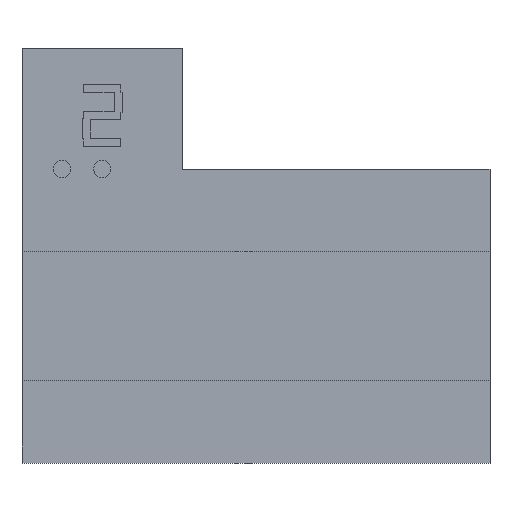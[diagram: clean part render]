
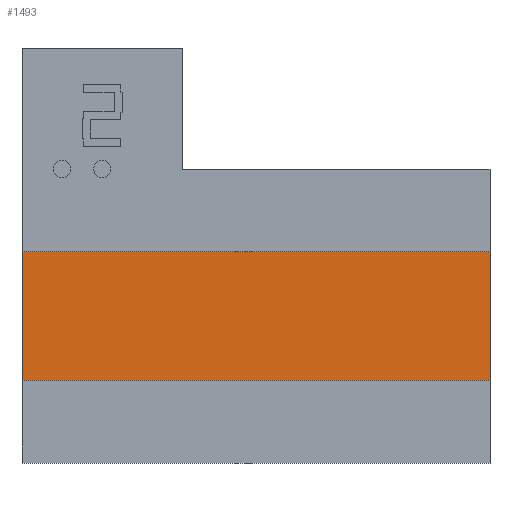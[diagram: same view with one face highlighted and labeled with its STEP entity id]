
A CAD part, top view. The second image highlights one B-rep face of the part: STEP entity #1493.
In plain terms, the highlighted planar face has unit normal (0, 0, 1).
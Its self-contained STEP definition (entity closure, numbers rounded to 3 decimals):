
#128 = PLANE('',#129);
#129 = AXIS2_PLACEMENT_3D('',#130,#131,#132);
#130 = CARTESIAN_POINT('',(12.,11.,6.2));
#131 = DIRECTION('',(1.,0.,0.));
#132 = DIRECTION('',(0.,0.,-1.));
#182 = PLANE('',#183);
#183 = AXIS2_PLACEMENT_3D('',#184,#185,#186);
#184 = CARTESIAN_POINT('',(-23.,11.,6.2));
#185 = DIRECTION('',(1.,0.,0.));
#186 = DIRECTION('',(0.,0.,-1.));
#422 = VERTEX_POINT('',#423);
#423 = CARTESIAN_POINT('',(12.,7.4,3.));
#436 = PLANE('',#437);
#437 = AXIS2_PLACEMENT_3D('',#438,#439,#440);
#438 = CARTESIAN_POINT('',(-31.,7.4,3.));
#439 = DIRECTION('',(0.,-1.,0.));
#440 = DIRECTION('',(0.,0.,1.));
#448 = EDGE_CURVE('',#422,#449,#451,.T.);
#449 = VERTEX_POINT('',#450);
#450 = CARTESIAN_POINT('',(12.,-7.4,3.));
#451 = SURFACE_CURVE('',#452,(#456,#462),.PCURVE_S1.);
#452 = LINE('',#453,#454);
#453 = CARTESIAN_POINT('',(12.,1.8,3.));
#454 = VECTOR('',#455,1.);
#455 = DIRECTION('',(0.,-1.,0.));
#456 = PCURVE('',#128,#457);
#457 = DEFINITIONAL_REPRESENTATION('',(#458),#461);
#458 = B_SPLINE_CURVE_WITH_KNOTS('',1,(#459,#460),.UNSPECIFIED.,.F.,.F.,
  (2,2),(-5.6,9.2),.PIECEWISE_BEZIER_KNOTS.);
#459 = CARTESIAN_POINT('',(3.2,-3.6));
#460 = CARTESIAN_POINT('',(3.2,-18.4));
#461 = ( GEOMETRIC_REPRESENTATION_CONTEXT(2) 
PARAMETRIC_REPRESENTATION_CONTEXT() REPRESENTATION_CONTEXT('2D SPACE',''
  ) );
#462 = PCURVE('',#463,#468);
#463 = PLANE('',#464);
#464 = AXIS2_PLACEMENT_3D('',#465,#466,#467);
#465 = CARTESIAN_POINT('',(-31.,-7.4,3.));
#466 = DIRECTION('',(0.,0.,1.));
#467 = DIRECTION('',(0.,1.,0.));
#468 = DEFINITIONAL_REPRESENTATION('',(#469),#473);
#469 = LINE('',#470,#471);
#470 = CARTESIAN_POINT('',(9.2,-43.));
#471 = VECTOR('',#472,1.);
#472 = DIRECTION('',(-1.,-0.));
#473 = ( GEOMETRIC_REPRESENTATION_CONTEXT(2) 
PARAMETRIC_REPRESENTATION_CONTEXT() REPRESENTATION_CONTEXT('2D SPACE',''
  ) );
#490 = PLANE('',#491);
#491 = AXIS2_PLACEMENT_3D('',#492,#493,#494);
#492 = CARTESIAN_POINT('',(-31.,-7.4,3.6));
#493 = DIRECTION('',(0.,1.,0.));
#494 = DIRECTION('',(0.,0.,-1.));
#678 = VERTEX_POINT('',#679);
#679 = CARTESIAN_POINT('',(-23.,7.4,3.));
#700 = EDGE_CURVE('',#678,#701,#703,.T.);
#701 = VERTEX_POINT('',#702);
#702 = CARTESIAN_POINT('',(-23.,-7.4,3.));
#703 = SURFACE_CURVE('',#704,(#708,#715),.PCURVE_S1.);
#704 = LINE('',#705,#706);
#705 = CARTESIAN_POINT('',(-23.,1.8,3.));
#706 = VECTOR('',#707,1.);
#707 = DIRECTION('',(0.,-1.,0.));
#708 = PCURVE('',#182,#709);
#709 = DEFINITIONAL_REPRESENTATION('',(#710),#714);
#710 = LINE('',#711,#712);
#711 = CARTESIAN_POINT('',(3.2,-9.2));
#712 = VECTOR('',#713,1.);
#713 = DIRECTION('',(0.,-1.));
#714 = ( GEOMETRIC_REPRESENTATION_CONTEXT(2) 
PARAMETRIC_REPRESENTATION_CONTEXT() REPRESENTATION_CONTEXT('2D SPACE',''
  ) );
#715 = PCURVE('',#463,#716);
#716 = DEFINITIONAL_REPRESENTATION('',(#717),#721);
#717 = LINE('',#718,#719);
#718 = CARTESIAN_POINT('',(9.2,-8.));
#719 = VECTOR('',#720,1.);
#720 = DIRECTION('',(-1.,-0.));
#721 = ( GEOMETRIC_REPRESENTATION_CONTEXT(2) 
PARAMETRIC_REPRESENTATION_CONTEXT() REPRESENTATION_CONTEXT('2D SPACE',''
  ) );
#1472 = EDGE_CURVE('',#449,#701,#1473,.T.);
#1473 = SURFACE_CURVE('',#1474,(#1478,#1485),.PCURVE_S1.);
#1474 = LINE('',#1475,#1476);
#1475 = CARTESIAN_POINT('',(12.,-7.4,3.));
#1476 = VECTOR('',#1477,1.);
#1477 = DIRECTION('',(-1.,-0.,0.));
#1478 = PCURVE('',#490,#1479);
#1479 = DEFINITIONAL_REPRESENTATION('',(#1480),#1484);
#1480 = LINE('',#1481,#1482);
#1481 = CARTESIAN_POINT('',(0.6,-43.));
#1482 = VECTOR('',#1483,1.);
#1483 = DIRECTION('',(0.,1.));
#1484 = ( GEOMETRIC_REPRESENTATION_CONTEXT(2) 
PARAMETRIC_REPRESENTATION_CONTEXT() REPRESENTATION_CONTEXT('2D SPACE',''
  ) );
#1485 = PCURVE('',#463,#1486);
#1486 = DEFINITIONAL_REPRESENTATION('',(#1487),#1491);
#1487 = LINE('',#1488,#1489);
#1488 = CARTESIAN_POINT('',(0.,-43.));
#1489 = VECTOR('',#1490,1.);
#1490 = DIRECTION('',(0.,1.));
#1491 = ( GEOMETRIC_REPRESENTATION_CONTEXT(2) 
PARAMETRIC_REPRESENTATION_CONTEXT() REPRESENTATION_CONTEXT('2D SPACE',''
  ) );
#1493 = ADVANCED_FACE('',(#1494),#463,.T.);
#1494 = FACE_BOUND('',#1495,.T.);
#1495 = EDGE_LOOP('',(#1496,#1497,#1498,#1519));
#1496 = ORIENTED_EDGE('',*,*,#1472,.F.);
#1497 = ORIENTED_EDGE('',*,*,#448,.F.);
#1498 = ORIENTED_EDGE('',*,*,#1499,.T.);
#1499 = EDGE_CURVE('',#422,#678,#1500,.T.);
#1500 = SURFACE_CURVE('',#1501,(#1505,#1512),.PCURVE_S1.);
#1501 = LINE('',#1502,#1503);
#1502 = CARTESIAN_POINT('',(12.,7.4,3.));
#1503 = VECTOR('',#1504,1.);
#1504 = DIRECTION('',(-1.,-0.,0.));
#1505 = PCURVE('',#463,#1506);
#1506 = DEFINITIONAL_REPRESENTATION('',(#1507),#1511);
#1507 = LINE('',#1508,#1509);
#1508 = CARTESIAN_POINT('',(14.8,-43.));
#1509 = VECTOR('',#1510,1.);
#1510 = DIRECTION('',(0.,1.));
#1511 = ( GEOMETRIC_REPRESENTATION_CONTEXT(2) 
PARAMETRIC_REPRESENTATION_CONTEXT() REPRESENTATION_CONTEXT('2D SPACE',''
  ) );
#1512 = PCURVE('',#436,#1513);
#1513 = DEFINITIONAL_REPRESENTATION('',(#1514),#1518);
#1514 = LINE('',#1515,#1516);
#1515 = CARTESIAN_POINT('',(0.,-43.));
#1516 = VECTOR('',#1517,1.);
#1517 = DIRECTION('',(0.,1.));
#1518 = ( GEOMETRIC_REPRESENTATION_CONTEXT(2) 
PARAMETRIC_REPRESENTATION_CONTEXT() REPRESENTATION_CONTEXT('2D SPACE',''
  ) );
#1519 = ORIENTED_EDGE('',*,*,#700,.T.);
